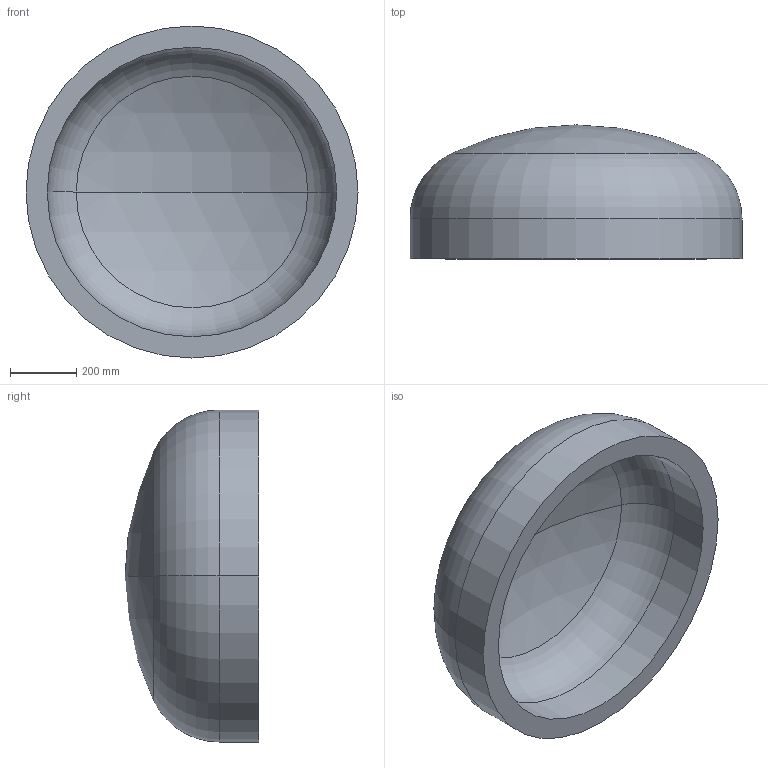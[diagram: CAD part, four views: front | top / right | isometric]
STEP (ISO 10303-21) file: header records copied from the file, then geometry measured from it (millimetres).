
FILE_DESCRIPTION (( 'STEP AP203' ), '1' );
FILE_NAME ('DIN 28013 Korbbogenform_-_Boden DIN 28013 - 1000 x 120 - I - s=64.step', '2016-07-01T08:52:23', ( '' ), ( '' ), 'SwSTEP 2.0', 'SolidWorks 2013', '' );
FILE_SCHEMA (( 'CONFIG_CONTROL_DESIGN' ));
Length unit declared in the file: millimetre
Products named in the file (1): DIN 28013 Korbbogenform_-_Boden DIN 28013 - 1000 x 120 - I - s=64
Bounding box: 1000 x 403.43 x 1000 mm (x, y, z)
Volume: 86849220.9 mm3; surface area: 2910810.2 mm2
Topology: 1 solids, 1 shells, 13 faces, 24 edges, 14 vertices
Faces by surface type: torus 4, cylinder 4, sphere 4, plane 1
Entity records: 407 total; most frequent: DIRECTION 72, CARTESIAN_POINT 52, ORIENTED_EDGE 48, AXIS2_PLACEMENT_3D 34, EDGE_CURVE 24, CIRCLE 20, VERTEX_POINT 14, EDGE_LOOP 14
